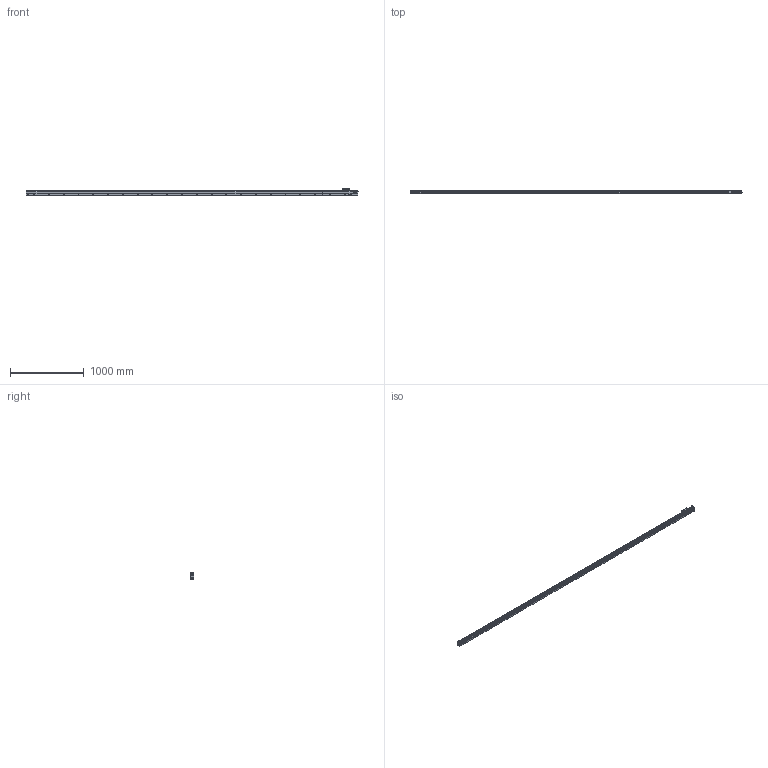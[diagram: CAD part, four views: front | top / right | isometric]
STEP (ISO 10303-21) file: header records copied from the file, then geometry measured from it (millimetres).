
FILE_DESCRIPTION(('Creo Elements/Direct Modeling STEP Export'),'2;1');
FILE_NAME('REGLA_L3_4240_M.stp','2021-02-03T13:12:13',(''),(''),'Creo Elements/Direct Modeling STEP processor for AP214 (Solid Model)','Creo Elements/Direct Modeling 19.0G 27-Nov-2017 (C) Parametric Technology GmbH','');
FILE_SCHEMA(('AUTOMOTIVE_DESIGN { 1 0 10303 214 1 1 1 1 }'));
Length unit declared in the file: millimetre
Products named in the file (3): CABEZA_L3_M8; PERFIL_L3_4240; MOD_L3_4240_M
Assembly tree (2 placements, depth 2):
  MOD_L3_4240_M
    PERFIL_L3_4240
    CABEZA_L3_M8
Bounding box: 4490 x 50 x 85 mm (x, y, z)
Volume: 11671738 mm3; surface area: 1300377.5 mm2
Topology: 2 solids, 2 shells, 2002 faces, 5755 edges, 3854 vertices
Faces by surface type: plane 1015, cylinder 680, cone 192, bspline 59, torus 50, extrusion 6
Entity records: 82082 total; most frequent: CARTESIAN_POINT 24322, ORIENTED_EDGE 11494, DIRECTION 10122, EDGE_CURVE 5747, VERTEX_POINT 3854, VECTOR 3626, LINE 3620, AXIS2_PLACEMENT_3D 3248
